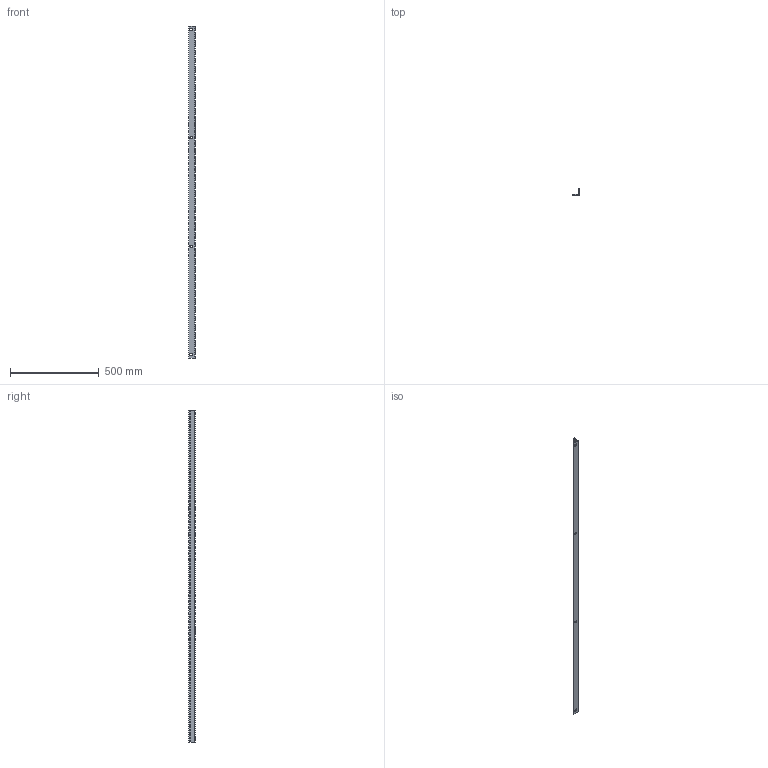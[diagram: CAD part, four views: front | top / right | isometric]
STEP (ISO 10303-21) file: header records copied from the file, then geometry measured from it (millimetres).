
FILE_DESCRIPTION( ( 'Unknown' ), '1' );
FILE_NAME( 'Q:/C4/WEB DRAWINGS/C4PR_AR/STEP/C4PR2473TZPL.stp', 'Unknown', ( 'Unknown' ), ( 'Unknown' ), 'PSStep 11.0', 'Unknown', ' ' );
FILE_SCHEMA( ( 'AUTOMOTIVE_DESIGN { 1 0 10303 214 1 1 1 1 }' ) );
Length unit declared in the file: inch
Products named in the file (1): 1
Bounding box: 38.1 x 34.82 x 1866.9 mm (x, y, z)
Volume: 396806.4 mm3; surface area: 268541.5 mm2
Topology: 1 solids, 1 shells, 152 faces, 576 edges, 426 vertices
Faces by surface type: cylinder 136, plane 16
Full cylindrical faces by diameter (mm): 4.496 x126
Entity records: 6368 total; most frequent: DIRECTION 902, CARTESIAN_POINT 777, ORIENTED_EDGE 648, EDGE_LOOP 538, AXIS2_PLACEMENT_3D 425, EDGE_CURVE 324, VERTEX_POINT 300, FACE_OUTER_BOUND 278
